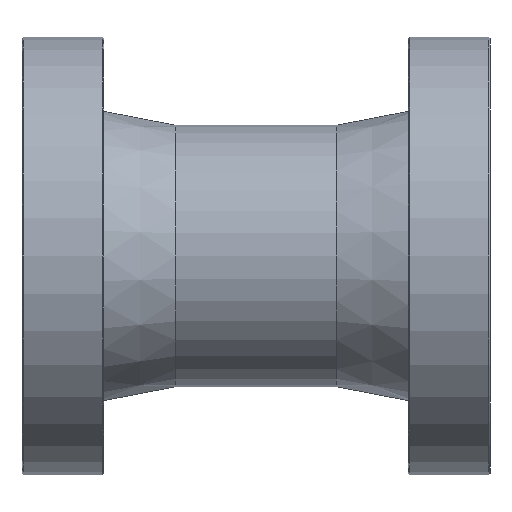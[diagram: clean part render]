
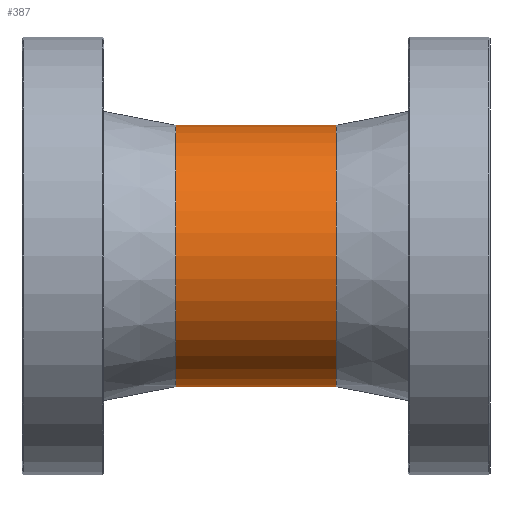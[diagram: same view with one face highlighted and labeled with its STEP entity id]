
A CAD part, left-side view. The second image highlights one B-rep face of the part: STEP entity #387.
In plain terms, the highlighted cylindrical face has radius 91.017 mm (diameter 182.033 mm), a partial arc.
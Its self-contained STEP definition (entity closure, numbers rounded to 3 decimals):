
#9 = ORIENTED_EDGE ( 'NONE', *, *, #4470, .F. ) ;
#44 = CARTESIAN_POINT ( 'NONE',  ( 0., -55.926, -91.017 ) ) ;
#348 = EDGE_CURVE ( 'NONE', #1866, #2868, #3350, .T. ) ;
#387 = ADVANCED_FACE ( 'NONE', ( #2764 ), #3127, .T. ) ;
#445 = DIRECTION ( 'NONE',  ( 0., 1., 0. ) ) ;
#1080 = EDGE_CURVE ( 'NONE', #1866, #4665, #1094, .T. ) ;
#1094 = LINE ( 'NONE', #4689, #2545 ) ;
#1308 = VECTOR ( 'NONE', #3159, 1000. ) ;
#1380 = CARTESIAN_POINT ( 'NONE',  ( 0., 55.926, 0. ) ) ;
#1501 = DIRECTION ( 'NONE',  ( 0., 0., 1. ) ) ;
#1516 = CARTESIAN_POINT ( 'NONE',  ( 0., 163., 0. ) ) ;
#1568 = DIRECTION ( 'NONE',  ( 0., 0., 1. ) ) ;
#1619 = DIRECTION ( 'NONE',  ( 0., 1., 0. ) ) ;
#1627 = EDGE_LOOP ( 'NONE', ( #4791, #3197, #1691, #9 ) ) ;
#1691 = ORIENTED_EDGE ( 'NONE', *, *, #5018, .T. ) ;
#1866 = VERTEX_POINT ( 'NONE', #44 ) ;
#1981 = CARTESIAN_POINT ( 'NONE',  ( 0., -55.926, 0. ) ) ;
#2175 = CIRCLE ( 'NONE', #5084, 91.017 ) ;
#2379 = CARTESIAN_POINT ( 'NONE',  ( 0., 55.926, 91.017 ) ) ;
#2522 = AXIS2_PLACEMENT_3D ( 'NONE', #1516, #445, #2812 ) ;
#2545 = VECTOR ( 'NONE', #4659, 1000. ) ;
#2764 = FACE_OUTER_BOUND ( 'NONE', #1627, .T. ) ;
#2812 = DIRECTION ( 'NONE',  ( 0., 0., 1. ) ) ;
#2868 = VERTEX_POINT ( 'NONE', #3478 ) ;
#2965 = DIRECTION ( 'NONE',  ( 0., 1., 0. ) ) ;
#3127 = CYLINDRICAL_SURFACE ( 'NONE', #2522, 91.017 ) ;
#3159 = DIRECTION ( 'NONE',  ( 0., 1., 0. ) ) ;
#3197 = ORIENTED_EDGE ( 'NONE', *, *, #348, .T. ) ;
#3350 = CIRCLE ( 'NONE', #4267, 91.017 ) ;
#3478 = CARTESIAN_POINT ( 'NONE',  ( 0., -55.926, 91.017 ) ) ;
#4267 = AXIS2_PLACEMENT_3D ( 'NONE', #1981, #1619, #1568 ) ;
#4339 = LINE ( 'NONE', #5117, #1308 ) ;
#4470 = EDGE_CURVE ( 'NONE', #4665, #4967, #2175, .T. ) ;
#4543 = CARTESIAN_POINT ( 'NONE',  ( 0., 55.926, -91.017 ) ) ;
#4659 = DIRECTION ( 'NONE',  ( 0., 1., 0. ) ) ;
#4665 = VERTEX_POINT ( 'NONE', #4543 ) ;
#4689 = CARTESIAN_POINT ( 'NONE',  ( 0., 163., -91.017 ) ) ;
#4791 = ORIENTED_EDGE ( 'NONE', *, *, #1080, .F. ) ;
#4967 = VERTEX_POINT ( 'NONE', #2379 ) ;
#5018 = EDGE_CURVE ( 'NONE', #2868, #4967, #4339, .T. ) ;
#5084 = AXIS2_PLACEMENT_3D ( 'NONE', #1380, #2965, #1501 ) ;
#5117 = CARTESIAN_POINT ( 'NONE',  ( 0., 163., 91.017 ) ) ;
